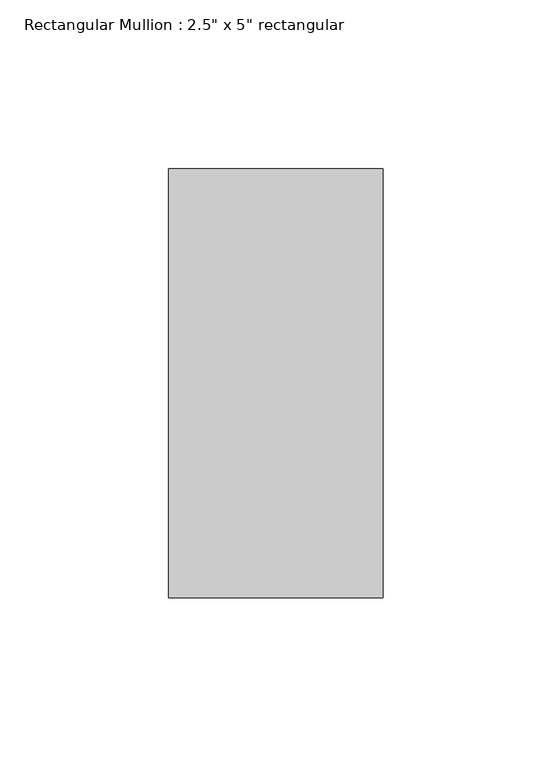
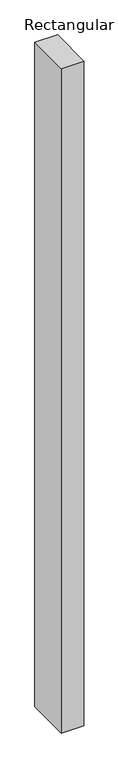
"""IFC4 building model written with IfcOpenShell, lengths in millimetres: member geometry."""

from ifc_helpers import new_model, si_unit, frame, origin, place, context, project, spatial, polyline, outline, extrude, source, transform, mapped, element, save


def member_0ed9814b(model_context):
    return source(origin(), model_context, "Body", "SweptSolid", [
        extrude(outline(polyline([(0.0, 50.8), (0.0, -76.2), (-63.5, -76.2), (-63.5, 50.8), (0.0, 50.8)])), frame((0.0, 0.0, -1958.975), z_axis=(0.0, 0.0, 1.0), x_axis=(1.0, 0.0, 0.0)), (0.0, 0.0, 1.0), 1958.975),
    ])


if __name__ == "__main__":
    model = new_model("IFC4")
    model_context = context("Model", 3, world=origin())
    ifc_project = project(units=[si_unit("LENGTHUNIT", "METRE", prefix="MILLI")], contexts=[model_context])
    site = spatial("IfcSite", under=ifc_project)
    building = spatial("IfcBuilding", under=site)
    placement = place(None, origin())
    member_shape = member_0ed9814b(model_context)
    element("IfcMember", 1, ObjectType="Rectangular Mullion : 2.5\" x 5\" rectangular", at=placement, inside=building, context=model_context, shape_type="MappedRepresentation", body=[
        mapped(member_shape, transform((0.0, 0.0, 0.0), x_axis=(1.0, 0.0, 0.0), y_axis=(0.0, 1.0, 0.0), z_axis=(0.0, 0.0, 1.0))),
    ])
    save(model, "model.ifc")
